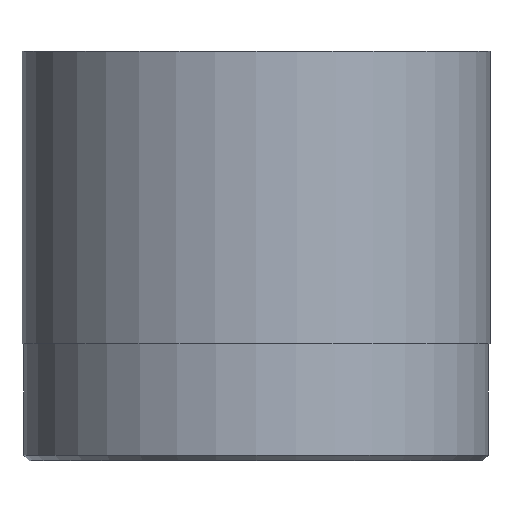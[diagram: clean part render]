
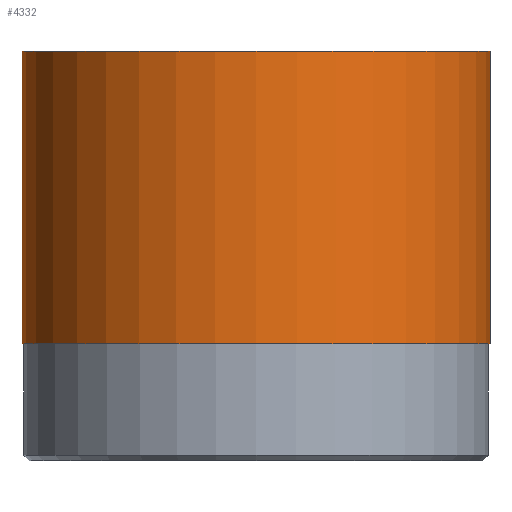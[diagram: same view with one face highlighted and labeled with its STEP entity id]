
A CAD part, front view. The second image highlights one B-rep face of the part: STEP entity #4332.
In plain terms, the highlighted cylindrical face has radius 8 mm (diameter 16 mm), a partial arc.
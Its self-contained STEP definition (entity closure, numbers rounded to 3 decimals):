
#517 = DIRECTION ( 'NONE',  ( 1., 0., 0. ) ) ;
#566 = AXIS2_PLACEMENT_3D ( 'NONE', #2028, #2144, #11110 ) ;
#1076 = EDGE_CURVE ( 'NONE', #1559, #4045, #6846, .T. ) ;
#1380 = LINE ( 'NONE', #10527, #4667 ) ;
#1464 = CARTESIAN_POINT ( 'NONE',  ( 0., 0., 3.798 ) ) ;
#1559 = VERTEX_POINT ( 'NONE', #10925 ) ;
#1771 = AXIS2_PLACEMENT_3D ( 'NONE', #10224, #10162, #4848 ) ;
#1780 = VERTEX_POINT ( 'NONE', #1882 ) ;
#1882 = CARTESIAN_POINT ( 'NONE',  ( -8., 0., 0. ) ) ;
#2028 = CARTESIAN_POINT ( 'NONE',  ( 0., 0., -10. ) ) ;
#2144 = DIRECTION ( 'NONE',  ( 0., 0., -1. ) ) ;
#2751 = VECTOR ( 'NONE', #11441, 1000. ) ;
#2800 = EDGE_CURVE ( 'NONE', #1780, #4045, #9990, .T. ) ;
#3133 = AXIS2_PLACEMENT_3D ( 'NONE', #1464, #8819, #517 ) ;
#4045 = VERTEX_POINT ( 'NONE', #5008 ) ;
#4208 = ORIENTED_EDGE ( 'NONE', *, *, #11773, .F. ) ;
#4332 = ADVANCED_FACE ( 'NONE', ( #10433 ), #6906, .T. ) ;
#4456 = ORIENTED_EDGE ( 'NONE', *, *, #2800, .F. ) ;
#4667 = VECTOR ( 'NONE', #6048, 1000. ) ;
#4720 = CARTESIAN_POINT ( 'NONE',  ( -8., 0., -10. ) ) ;
#4848 = DIRECTION ( 'NONE',  ( 1., 0., 0. ) ) ;
#5008 = CARTESIAN_POINT ( 'NONE',  ( 8., 0., 0. ) ) ;
#5809 = EDGE_LOOP ( 'NONE', ( #4208, #7824, #10048, #4456 ) ) ;
#6007 = VERTEX_POINT ( 'NONE', #4720 ) ;
#6009 = EDGE_CURVE ( 'NONE', #1559, #6007, #9567, .T. ) ;
#6048 = DIRECTION ( 'NONE',  ( 0., 0., 1. ) ) ;
#6846 = LINE ( 'NONE', #10668, #2751 ) ;
#6906 = CYLINDRICAL_SURFACE ( 'NONE', #3133, 8. ) ;
#7824 = ORIENTED_EDGE ( 'NONE', *, *, #6009, .F. ) ;
#8819 = DIRECTION ( 'NONE',  ( 0., 0., 1. ) ) ;
#9567 = CIRCLE ( 'NONE', #566, 8. ) ;
#9990 = CIRCLE ( 'NONE', #1771, 8. ) ;
#10048 = ORIENTED_EDGE ( 'NONE', *, *, #1076, .T. ) ;
#10162 = DIRECTION ( 'NONE',  ( 0., 0., 1. ) ) ;
#10224 = CARTESIAN_POINT ( 'NONE',  ( 0., 0., 0. ) ) ;
#10433 = FACE_OUTER_BOUND ( 'NONE', #5809, .T. ) ;
#10527 = CARTESIAN_POINT ( 'NONE',  ( -8., 0., 3.798 ) ) ;
#10668 = CARTESIAN_POINT ( 'NONE',  ( 8., 0., 3.798 ) ) ;
#10925 = CARTESIAN_POINT ( 'NONE',  ( 8., 0., -10. ) ) ;
#11110 = DIRECTION ( 'NONE',  ( -1., 0., 0. ) ) ;
#11441 = DIRECTION ( 'NONE',  ( 0., 0., 1. ) ) ;
#11773 = EDGE_CURVE ( 'NONE', #6007, #1780, #1380, .T. ) ;
